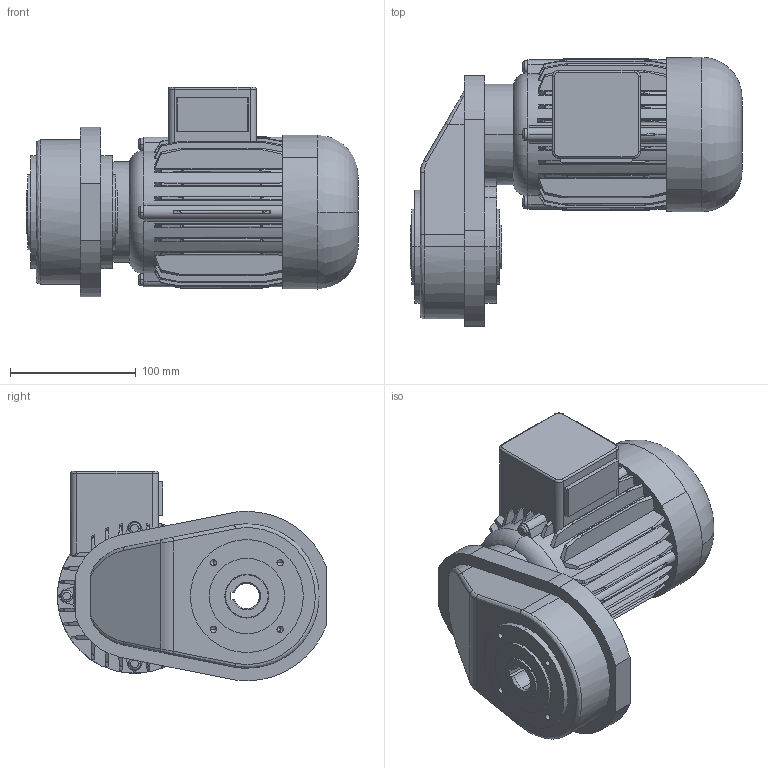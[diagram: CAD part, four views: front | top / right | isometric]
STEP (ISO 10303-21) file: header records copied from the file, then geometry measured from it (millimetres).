
FILE_DESCRIPTION(('OneSpaceDesigner STEP Export'),'2;1');
FILE_NAME('ODG6_FB30.stp','2010-04-13T11:31:43',(''),(''),'OneSpace Designer STEP processor (Jan. 2003) for AP214(CD)(Solid Model)','OneSpace Designer 12.01D 09-Jul-2004 (C) CoCreate Software GmbH','');
FILE_SCHEMA(('AUTOMOTIVE_DESIGN_CC2 {1 2 10303 214 -1 1 5 1}'));
Length unit declared in the file: millimetre
Products named in the file (2): ODG6_FB30
Assembly tree (1 placements, depth 2):
  ODG6_FB30
    ODG6_FB30
Bounding box: 264.5 x 214.5 x 167 mm (x, y, z)
Volume: 2994041.5 mm3; surface area: 217268.4 mm2
Topology: 1 solids, 1 shells, 424 faces, 1141 edges, 734 vertices
Faces by surface type: cylinder 146, plane 129, cone 100, torus 40, bspline 9
Entity records: 29071 total; most frequent: CARTESIAN_POINT 19587, ORIENTED_EDGE 2250, DIRECTION 1444, EDGE_CURVE 1125, VERTEX_POINT 734, AXIS2_PLACEMENT_3D 512, EDGE_LOOP 457, FACE_OUTER_BOUND 424
